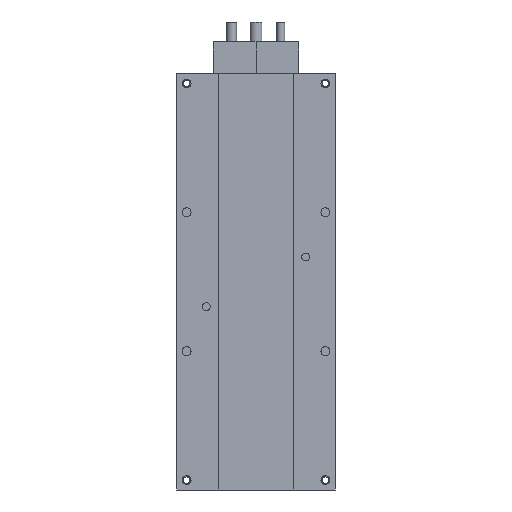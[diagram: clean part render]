
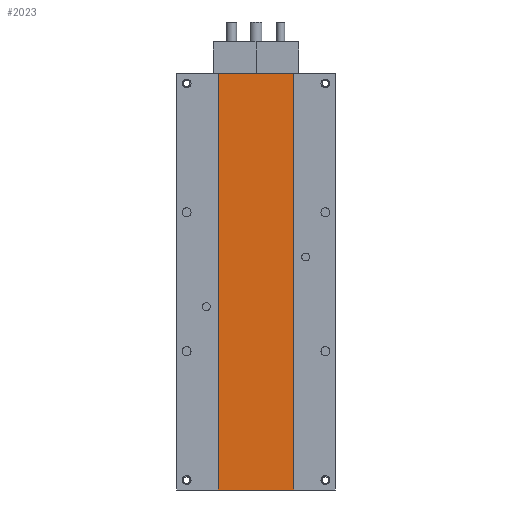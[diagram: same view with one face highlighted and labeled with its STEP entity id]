
A CAD part, front view. The second image highlights one B-rep face of the part: STEP entity #2023.
In plain terms, the highlighted planar face has unit normal (0, -1, 0).
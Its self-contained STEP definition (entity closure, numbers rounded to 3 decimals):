
#49=DIRECTION('',(-1.,0.,0.));
#50=VECTOR('',#49,38.1);
#51=CARTESIAN_POINT('',(19.05,0.25,-105.));
#52=LINE('',#51,#50);
#53=DIRECTION('',(1.,0.,0.));
#54=VECTOR('',#53,38.1);
#55=CARTESIAN_POINT('',(-19.05,0.25,105.));
#56=LINE('',#55,#54);
#57=DIRECTION('',(0.,0.,-1.));
#58=VECTOR('',#57,210.);
#59=CARTESIAN_POINT('',(19.05,0.25,105.));
#60=LINE('',#59,#58);
#61=DIRECTION('',(0.,0.,-1.));
#62=VECTOR('',#61,210.);
#63=CARTESIAN_POINT('',(-19.05,0.25,105.));
#64=LINE('',#63,#62);
#1752=CARTESIAN_POINT('',(19.05,0.25,-105.));
#1754=VERTEX_POINT('',#1752);
#1756=CARTESIAN_POINT('',(-19.05,0.25,-105.));
#1758=VERTEX_POINT('',#1756);
#1760=CARTESIAN_POINT('',(19.05,0.25,105.));
#1762=VERTEX_POINT('',#1760);
#1764=CARTESIAN_POINT('',(-19.05,0.25,105.));
#1766=VERTEX_POINT('',#1764);
#2010=CARTESIAN_POINT('',(19.05,0.25,105.));
#2011=DIRECTION('',(0.,1.,0.));
#2012=DIRECTION('',(-1.,0.,0.));
#2013=AXIS2_PLACEMENT_3D('',#2010,#2011,#2012);
#2014=PLANE('',#2013);
#2015=ORIENTED_EDGE('',*,*,#1990,.T.);
#2017=ORIENTED_EDGE('',*,*,#2016,.F.);
#2019=ORIENTED_EDGE('',*,*,#2018,.T.);
#2020=ORIENTED_EDGE('',*,*,#2001,.T.);
#2021=EDGE_LOOP('',(#2015,#2017,#2019,#2020));
#2022=FACE_OUTER_BOUND('',#2021,.F.);
#2023=ADVANCED_FACE('',(#2022),#2014,.F.);
#1990=EDGE_CURVE('',#1754,#1758,#52,.T.);
#2001=EDGE_CURVE('',#1762,#1754,#60,.T.);
#2016=EDGE_CURVE('',#1766,#1758,#64,.T.);
#2018=EDGE_CURVE('',#1766,#1762,#56,.T.);
